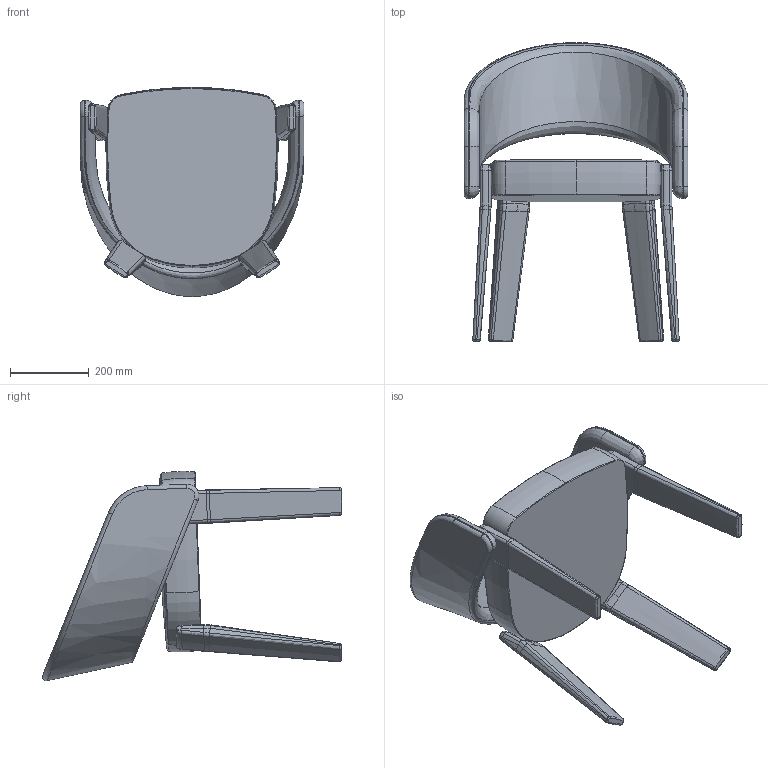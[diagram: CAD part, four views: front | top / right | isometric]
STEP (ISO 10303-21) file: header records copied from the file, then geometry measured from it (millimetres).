
FILE_DESCRIPTION (( 'STEP AP203' ), '1' );
FILE_NAME ('FUR01_FUR_sedia.STEP', '2025-04-28T10:22:50', ( '' ), ( '' ), 'SwSTEP 2.0', 'SolidWorks 2022', '' );
FILE_SCHEMA (( 'CONFIG_CONTROL_DESIGN' ));
Length unit declared in the file: millimetre
Products named in the file (7): schienale Fur_3_Default<A macchina>; 4GLFURPx0xxx-00-FUR GAMBA POSTERIORE_SX_3d WEB; 4GLFURAx0xxx-00-FUR GAMBA ANTERIORE_DX | 3D WEB; 4GLFURPx0xxx-00-FUR GAMBA POSTERIORE_DX_3d WEB; FUR01_FUR_sedia; 4GLFURAx0xxx-00-FUR GAMBA ANTERIORE_SX | 3D WEB; cuscino Fur_2
Assembly tree (6 placements, depth 2):
  FUR01_FUR_sedia
    4GLFURPx0xxx-00-FUR GAMBA POSTERIORE_SX_3d WEB
    4GLFURPx0xxx-00-FUR GAMBA POSTERIORE_DX_3d WEB
    4GLFURAx0xxx-00-FUR GAMBA ANTERIORE_SX | 3D WEB
    4GLFURAx0xxx-00-FUR GAMBA ANTERIORE_DX | 3D WEB
    schienale Fur_3_Default<A macchina>
    cuscino Fur_2
Bounding box: 570 x 761.76 x 533.19 mm (x, y, z)
Volume: 29918063.3 mm3; surface area: 1424446.1 mm2
Topology: 6 solids, 6 shells, 267 faces, 743 edges, 488 vertices
Faces by surface type: bspline 181, torus 40, cylinder 24, plane 22
Entity records: 38325 total; most frequent: CARTESIAN_POINT 32308, ORIENTED_EDGE 1486, EDGE_CURVE 743, DIRECTION 553, VERTEX_POINT 488, B_SPLINE_CURVE_WITH_KNOTS 480, FACE_OUTER_BOUND 267, ADVANCED_FACE 267
